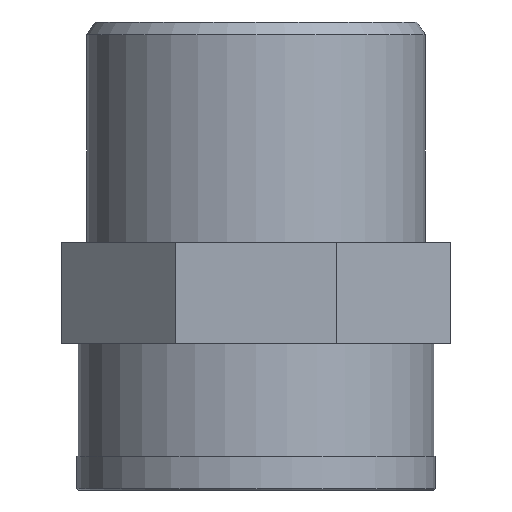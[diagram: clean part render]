
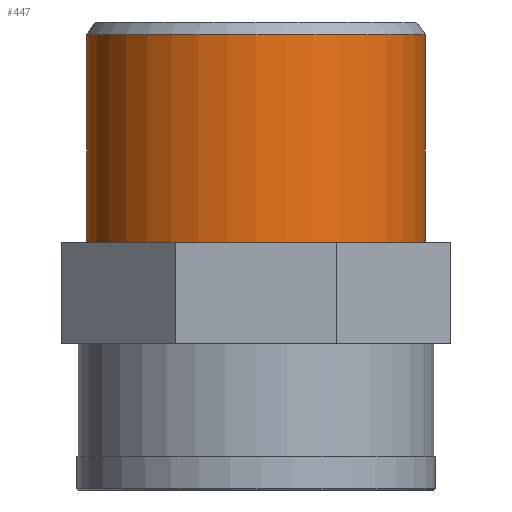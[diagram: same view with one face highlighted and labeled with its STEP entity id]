
A CAD part, front view. The second image highlights one B-rep face of the part: STEP entity #447.
In plain terms, the highlighted cylindrical face has radius 20 mm (diameter 40 mm), a full revolution.
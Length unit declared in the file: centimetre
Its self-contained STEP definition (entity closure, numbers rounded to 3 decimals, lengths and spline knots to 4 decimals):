
#105=FACE_BOUND('',#153,.T.);
#120=FACE_OUTER_BOUND('',#152,.T.);
#152=EDGE_LOOP('',(#310));
#153=EDGE_LOOP('',(#311));
#193=CIRCLE('',#481,2.);
#195=CIRCLE('',#484,2.);
#214=VERTEX_POINT('',#691);
#216=VERTEX_POINT('',#696);
#254=EDGE_CURVE('',#214,#214,#193,.T.);
#256=EDGE_CURVE('',#216,#216,#195,.T.);
#310=ORIENTED_EDGE('',*,*,#256,.T.);
#311=ORIENTED_EDGE('',*,*,#254,.F.);
#409=CYLINDRICAL_SURFACE('',#483,2.);
#447=ADVANCED_FACE('',(#120,#105),#409,.T.);
#481=AXIS2_PLACEMENT_3D('',#692,#529,#530);
#483=AXIS2_PLACEMENT_3D('',#695,#533,#534);
#484=AXIS2_PLACEMENT_3D('',#697,#535,#536);
#529=DIRECTION('center_axis',(0.,0.,1.));
#530=DIRECTION('ref_axis',(-1.,0.,0.));
#533=DIRECTION('center_axis',(0.,0.,1.));
#534=DIRECTION('ref_axis',(1.,0.,0.));
#535=DIRECTION('center_axis',(0.,0.,1.));
#536=DIRECTION('ref_axis',(1.,0.,0.));
#691=CARTESIAN_POINT('',(1.598,-0.003,3.3733));
#692=CARTESIAN_POINT('Origin',(-0.402,-0.003,
3.3733));
#695=CARTESIAN_POINT('Origin',(-0.402,-0.003,
2.2233));
#696=CARTESIAN_POINT('',(1.598,-0.003,0.9233));
#697=CARTESIAN_POINT('Origin',(-0.402,-0.003,
0.9233));
